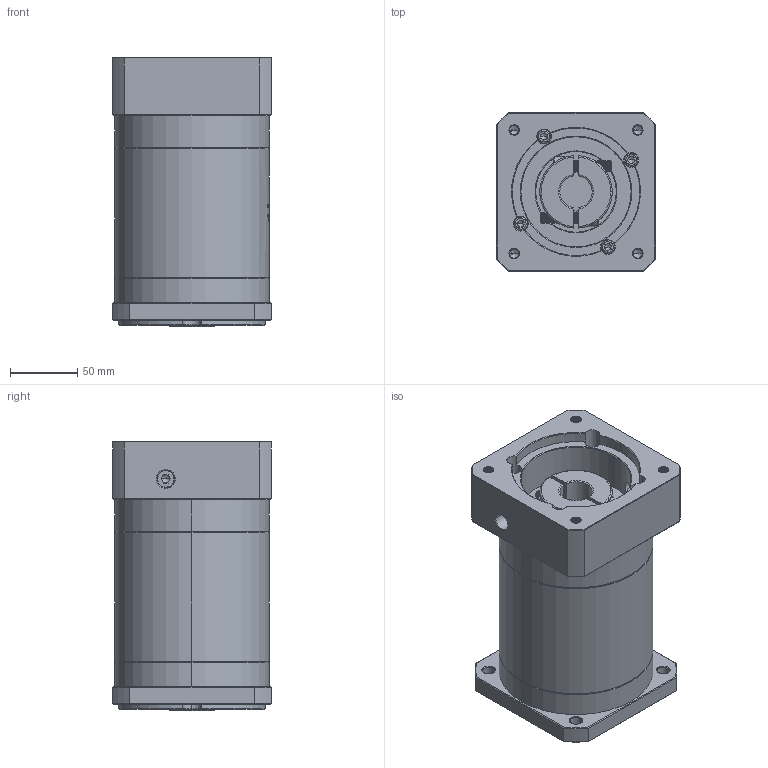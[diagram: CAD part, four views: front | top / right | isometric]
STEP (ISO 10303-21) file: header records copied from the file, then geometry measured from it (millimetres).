
FILE_DESCRIPTION (( 'STEP AP214' ), '1' );
FILE_NAME ('ZF120A-K25-L3-24-95-130-M8.step', '2023-03-07T09:40:02', ( '' ), ( '' ), 'SwSTEP 2.0', 'SolidWorks 2016', '' );
FILE_SCHEMA (( 'AUTOMOTIVE_DESIGN' ));
Length unit declared in the file: millimetre
Products named in the file (1): ZF120A-K25-L3-24-95-130-M8
Bounding box: 118 x 118 x 200.5 mm (x, y, z)
Volume: 2007667.6 mm3; surface area: 183869.9 mm2
Topology: 6 solids, 6 shells, 1894 faces, 4969 edges, 3169 vertices
Faces by surface type: plane 850, cylinder 392, cone 320, bspline 312, torus 20
Entity records: 101745 total; most frequent: CARTESIAN_POINT 37788, ORIENTED_EDGE 9882, DIRECTION 7704, EDGE_CURVE 4941, VERTEX_POINT 3169, LINE 2696, VECTOR 2696, AXIS2_PLACEMENT_3D 2504
